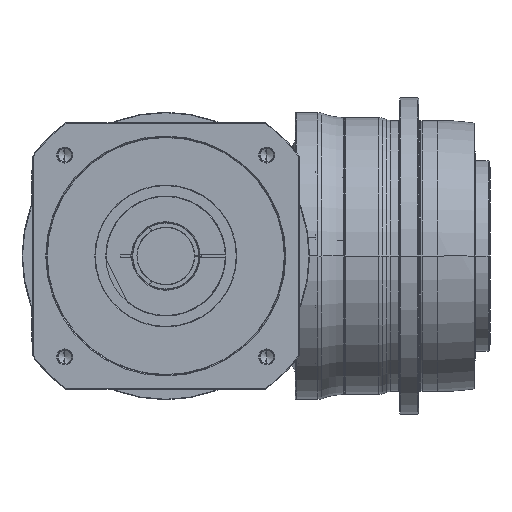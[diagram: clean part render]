
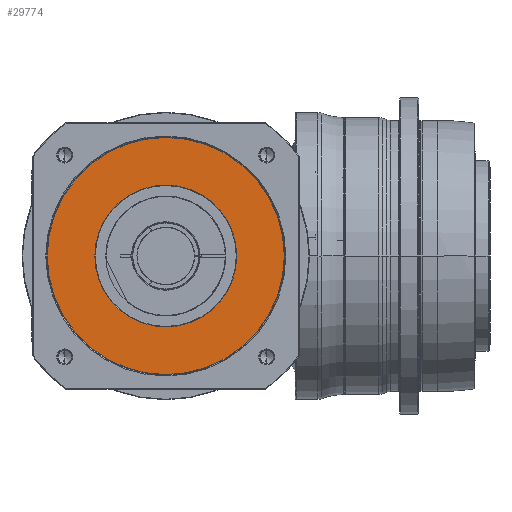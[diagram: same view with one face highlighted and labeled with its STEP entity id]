
A CAD part, front view. The second image highlights one B-rep face of the part: STEP entity #29774.
In plain terms, the highlighted planar face has unit normal (0, -1, 0) as drawn and (0, 0, 1) by its records, which use the part's own axes.
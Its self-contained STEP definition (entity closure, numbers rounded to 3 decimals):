
#28505=CARTESIAN_POINT('',(0.,0.,58.));
#28506=DIRECTION('',(0.,0.,-1.));
#28507=DIRECTION('',(0.,-1.,0.));
#28508=AXIS2_PLACEMENT_3D('',#28505,#28506,#28507);
#28510=CARTESIAN_POINT('',(0.,0.,58.));
#28511=DIRECTION('',(0.,0.,-1.));
#28512=DIRECTION('',(0.,1.,0.));
#28513=AXIS2_PLACEMENT_3D('',#28510,#28511,#28512);
#28515=CARTESIAN_POINT('',(0.,0.,58.));
#28516=DIRECTION('',(0.,0.,-1.));
#28517=DIRECTION('',(1.,0.,0.));
#28518=AXIS2_PLACEMENT_3D('',#28515,#28516,#28517);
#28533=CARTESIAN_POINT('',(0.,0.,58.));
#28534=DIRECTION('',(0.,0.,-1.));
#28535=DIRECTION('',(-1.,0.,0.));
#28536=AXIS2_PLACEMENT_3D('',#28533,#28534,#28535);
#29068=CARTESIAN_POINT('',(0.,-124.5,58.));
#29069=CARTESIAN_POINT('',(0.,124.5,58.));
#29070=VERTEX_POINT('',#29068);
#29071=VERTEX_POINT('',#29069);
#29076=CARTESIAN_POINT('',(-74.5,0.,58.));
#29077=CARTESIAN_POINT('',(74.5,0.,58.));
#29078=VERTEX_POINT('',#29076);
#29079=VERTEX_POINT('',#29077);
#29758=CARTESIAN_POINT('',(0.,0.,58.));
#29759=DIRECTION('',(0.,0.,-1.));
#29760=DIRECTION('',(0.,-1.,0.));
#29761=AXIS2_PLACEMENT_3D('',#29758,#29759,#29760);
#29762=PLANE('',#29761);
#29764=ORIENTED_EDGE('',*,*,#29763,.T.);
#29765=ORIENTED_EDGE('',*,*,#29748,.T.);
#29766=EDGE_LOOP('',(#29764,#29765));
#29767=FACE_OUTER_BOUND('',#29766,.F.);
#29769=ORIENTED_EDGE('',*,*,#29768,.F.);
#29771=ORIENTED_EDGE('',*,*,#29770,.F.);
#29772=EDGE_LOOP('',(#29769,#29771));
#29773=FACE_BOUND('',#29772,.F.);
#29774=ADVANCED_FACE('',(#29767,#29773),#29762,.F.);
#28509=CIRCLE('',#28508,124.5);
#28514=CIRCLE('',#28513,124.5);
#28519=CIRCLE('',#28518,74.5);
#28537=CIRCLE('',#28536,74.5);
#29748=EDGE_CURVE('',#29071,#29070,#28514,.T.);
#29763=EDGE_CURVE('',#29070,#29071,#28509,.T.);
#29768=EDGE_CURVE('',#29079,#29078,#28519,.T.);
#29770=EDGE_CURVE('',#29078,#29079,#28537,.T.);
